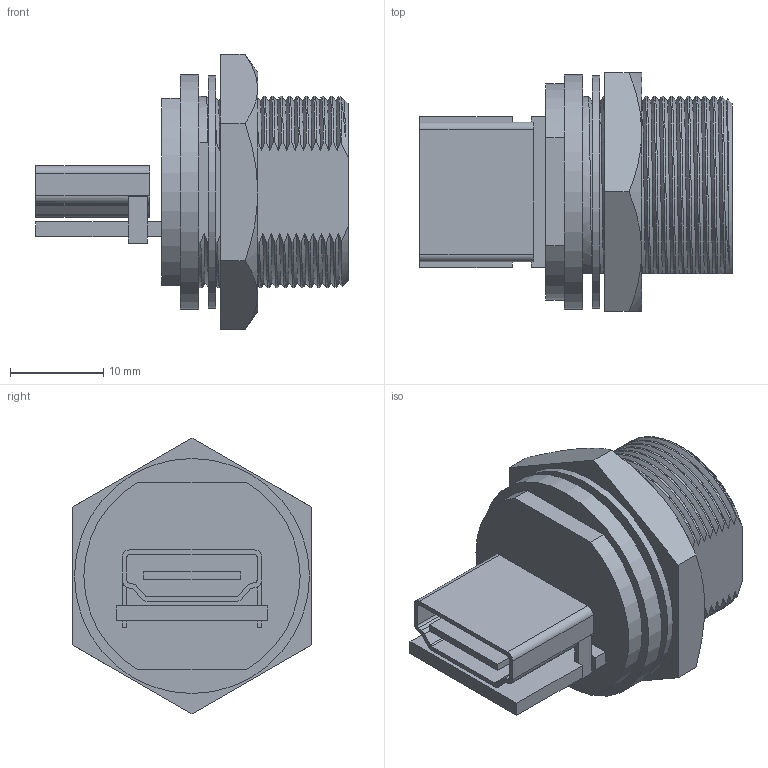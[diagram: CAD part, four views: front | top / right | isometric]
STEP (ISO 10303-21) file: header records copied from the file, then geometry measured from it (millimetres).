
FILE_DESCRIPTION(/* description */ (''),/* implementation_level */ '2;1');
FILE_NAME(/* name */ 'HDMIAC-P3CSJ.stp',/* time_stamp */ '2026-04-08T16:50:14+09:00',/* author */ ('CS-05'),/* organization */ (''),/* preprocessor_version */ 'ST-DEVELOPER v19.2',/* originating_system */ 'Autodesk Inventor 2023',/* authorisation */ '');
FILE_SCHEMA (('AUTOMOTIVE_DESIGN { 1 0 10303 214 3 1 1 }'));
Length unit declared in the file: millimetre
Products named in the file (4): TB-007_HDMIAC-P3CSJ_SD; TB-007_HDMIAC-P3CSJ_SD1; TB-007_HDMIAC-P3CSJ_SD2; TB-007_HDMIAC-P3CSJ_SD3
Assembly tree (3 placements, depth 2):
  TB-007_HDMIAC-P3CSJ_SD
    TB-007_HDMIAC-P3CSJ_SD1
    TB-007_HDMIAC-P3CSJ_SD2
    TB-007_HDMIAC-P3CSJ_SD3
Bounding box: 33.5 x 25.6 x 29.56 mm (x, y, z)
Volume: 8367.3 mm3; surface area: 6059.2 mm2
Topology: 3 solids, 3 shells, 187 faces, 505 edges, 332 vertices
Faces by surface type: plane 91, cylinder 55, bspline 34, cone 7
Full cylindrical faces by diameter (mm): 20.638 x2, 25 x1, 25.2 x1
Entity records: 8654 total; most frequent: CARTESIAN_POINT 4074, ORIENTED_EDGE 1010, DIRECTION 782, EDGE_CURVE 505, VERTEX_POINT 332, LINE 284, VECTOR 284, AXIS2_PLACEMENT_3D 249
